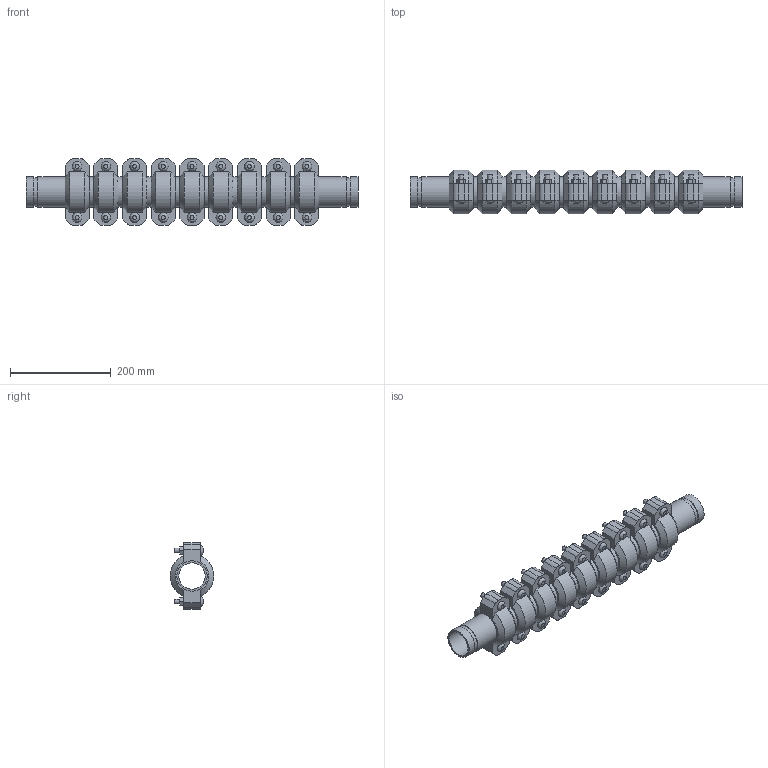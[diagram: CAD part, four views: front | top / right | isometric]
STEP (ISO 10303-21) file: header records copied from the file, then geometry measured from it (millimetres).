
FILE_DESCRIPTION(/* description */ ('VIC SS EXPANSION JOINT 9 COUPLINGS COMPRESSED STYLE 155P (OGS) (POTABLE WATER) ','CAx-IF Rec.Pracs.---Representation and Presentation of Product Manufacturing Information (PMI)---4.0---2014-10-13'),/* implementation_level */ '2;1');
FILE_NAME(/* name */ 'C:\Users\kkamble\AppData\Roaming\Autodesk\ApplicationPlugins\Victaulic.Temp\A693\Victaulic_SS_Expansion Joint_Compressed_9 Couplings_Style 155P (OGS)-Potable Water_9 Coup_Comp_2 (50).stp',/* time_stamp */ '2021-07-16T17:18:24+06:00',/* author */ ('kkamble'),/* organization */ ('Victaulic'),/* preprocessor_version */ 'ST-DEVELOPER v17.2',/* originating_system */ 'Autodesk Inventor 2019',/* authorisation */ '');
FILE_SCHEMA (('AP242_MANAGED_MODEL_BASED_3D_ENGINEERING_MIM_LF { 1 0 10303 442 1 1 4 }'));
Length unit declared in the file: inch
Products named in the file (4): 155P-02.0; Nipple-02.0; Nipple-02.0_1; 075-02.0
Assembly tree (19 placements, depth 2):
  155P-02.0
    Nipple-02.0  x2
    Nipple-02.0_1  x8
    075-02.0  x9
Bounding box: 660.4 x 87.12 x 132.59 mm (x, y, z)
Volume: 2211134.2 mm3; surface area: 606589.4 mm2
Topology: 19 solids, 37 shells, 597 faces, 1443 edges, 1014 vertices
Faces by surface type: plane 366, cylinder 177, cone 36, bspline 18
Full cylindrical faces by diameter (mm): 9.525 x36, 11.43 x18, 52.502 x10, 57.15 x20, 60.325 x39
Entity records: 2753 total; most frequent: CARTESIAN_POINT 489, DIRECTION 463, ORIENTED_EDGE 374, EDGE_CURVE 187, AXIS2_PLACEMENT_3D 186, VERTEX_POINT 134, EDGE_LOOP 101, LINE 91
